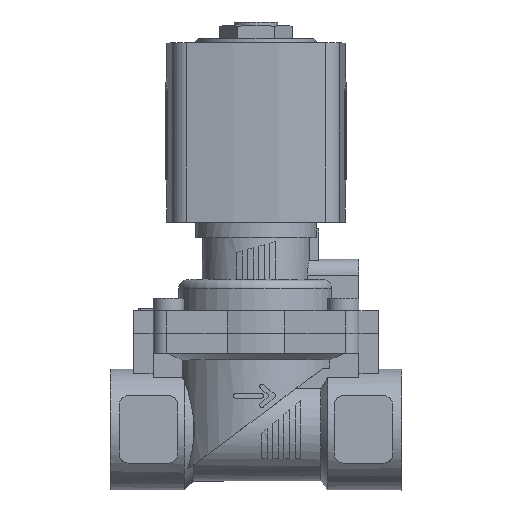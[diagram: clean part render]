
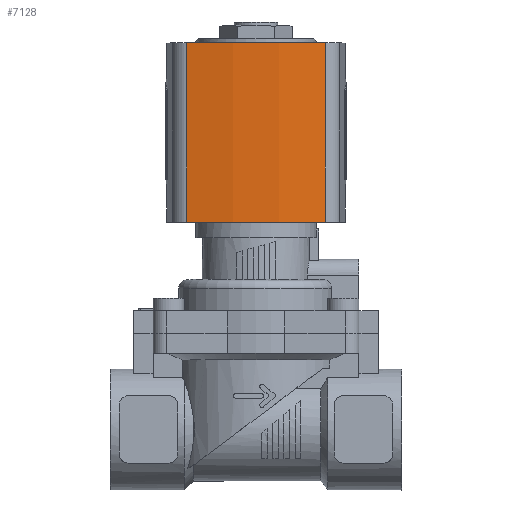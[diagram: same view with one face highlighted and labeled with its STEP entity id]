
A CAD part, top view. The second image highlights one B-rep face of the part: STEP entity #7128.
In plain terms, the highlighted cylindrical face has radius 80 mm (diameter 160 mm), a partial arc.
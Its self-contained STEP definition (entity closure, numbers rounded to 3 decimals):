
#245=CYLINDRICAL_SURFACE('',#7733,80.);
#676=LINE('',#11256,#1198);
#677=LINE('',#11260,#1199);
#1198=VECTOR('',#9267,1000.);
#1199=VECTOR('',#9272,1000.);
#2665=ORIENTED_EDGE('',*,*,#3717,.T.);
#2666=ORIENTED_EDGE('',*,*,#3718,.F.);
#2667=ORIENTED_EDGE('',*,*,#3665,.F.);
#2668=ORIENTED_EDGE('',*,*,#3716,.T.);
#3665=EDGE_CURVE('',#4298,#4299,#4586,.T.);
#3716=EDGE_CURVE('',#4298,#4342,#676,.T.);
#3717=EDGE_CURVE('',#4342,#4343,#4607,.T.);
#3718=EDGE_CURVE('',#4299,#4343,#677,.T.);
#4298=VERTEX_POINT('',#11156);
#4299=VERTEX_POINT('',#11157);
#4342=VERTEX_POINT('',#11255);
#4343=VERTEX_POINT('',#11259);
#4586=CIRCLE('',#7699,80.);
#4607=CIRCLE('',#7734,80.);
#4922=EDGE_LOOP('',(#2665,#2666,#2667,#2668));
#5312=FACE_BOUND('',#4922,.T.);
#7128=ADVANCED_FACE('',(#5312),#245,.T.);
#7699=AXIS2_PLACEMENT_3D('',#11155,#9177,#9178);
#7733=AXIS2_PLACEMENT_3D('',#11257,#9268,#9269);
#7734=AXIS2_PLACEMENT_3D('',#11258,#9270,#9271);
#9177=DIRECTION('',(0.,1.,0.));
#9178=DIRECTION('',(1.,0.,0.));
#9267=DIRECTION('',(0.,-1.,0.));
#9268=DIRECTION('',(0.,-1.,0.));
#9269=DIRECTION('',(0.,0.,-1.));
#9270=DIRECTION('',(0.,1.,0.));
#9271=DIRECTION('',(1.,0.,0.));
#9272=DIRECTION('',(0.,-1.,0.));
#11155=CARTESIAN_POINT('',(-56.5,14.,0.));
#11156=CARTESIAN_POINT('',(21.99,14.,15.472));
#11157=CARTESIAN_POINT('',(21.99,14.,-15.472));
#11255=CARTESIAN_POINT('',(21.99,-26.,15.472));
#11256=CARTESIAN_POINT('',(21.99,14.,15.472));
#11257=CARTESIAN_POINT('',(-56.5,14.,0.));
#11258=CARTESIAN_POINT('',(-56.5,-26.,0.));
#11259=CARTESIAN_POINT('',(21.99,-26.,-15.472));
#11260=CARTESIAN_POINT('',(21.99,14.,-15.472));
